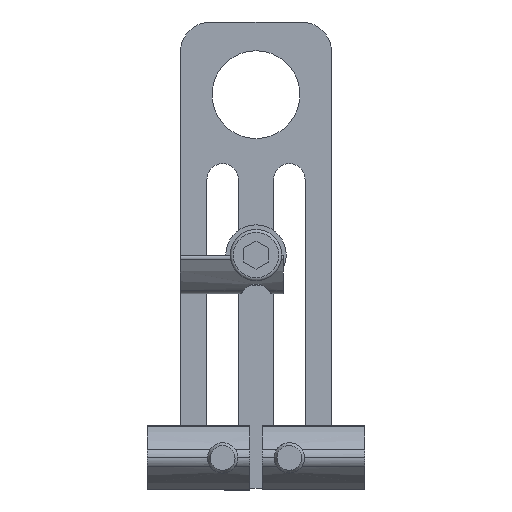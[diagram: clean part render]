
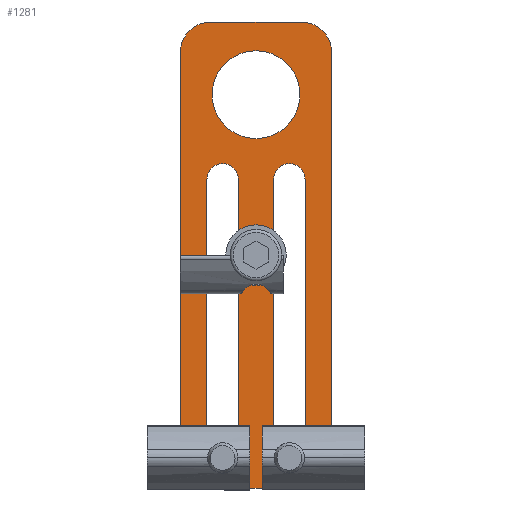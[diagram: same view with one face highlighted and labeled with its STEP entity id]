
A CAD part, left-side view. The second image highlights one B-rep face of the part: STEP entity #1281.
In plain terms, the highlighted planar face has unit normal (-1, 0, 0).
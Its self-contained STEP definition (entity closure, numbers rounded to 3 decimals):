
#1281 = ADVANCED_FACE( '', ( #1775, #1776, #1777, #1778 ), #1779, .T. );
#1775 = FACE_BOUND( '', #1893, .T. );
#1776 = FACE_OUTER_BOUND( '', #1894, .T. );
#1777 = FACE_BOUND( '', #1895, .T. );
#1778 = FACE_BOUND( '', #1896, .T. );
#1779 = PLANE( '', #1897 );
#1893 = EDGE_LOOP( '', ( #2060, #2061, #2062, #2063 ) );
#1894 = EDGE_LOOP( '', ( #2064, #2065, #2066, #2067, #2068, #2069, #2070, #2071 ) );
#1895 = EDGE_LOOP( '', ( #2072 ) );
#1896 = EDGE_LOOP( '', ( #2073, #2074, #2075, #2076 ) );
#1897 = AXIS2_PLACEMENT_3D( '', #2077, #2078, #2079 );
#2060 = ORIENTED_EDGE( '', *, *, #2321, .F. );
#2061 = ORIENTED_EDGE( '', *, *, #2322, .F. );
#2062 = ORIENTED_EDGE( '', *, *, #2319, .F. );
#2063 = ORIENTED_EDGE( '', *, *, #2323, .F. );
#2064 = ORIENTED_EDGE( '', *, *, #2324, .T. );
#2065 = ORIENTED_EDGE( '', *, *, #2316, .T. );
#2066 = ORIENTED_EDGE( '', *, *, #2325, .T. );
#2067 = ORIENTED_EDGE( '', *, *, #2326, .T. );
#2068 = ORIENTED_EDGE( '', *, *, #2327, .T. );
#2069 = ORIENTED_EDGE( '', *, *, #2328, .T. );
#2070 = ORIENTED_EDGE( '', *, *, #2329, .T. );
#2071 = ORIENTED_EDGE( '', *, *, #2330, .T. );
#2072 = ORIENTED_EDGE( '', *, *, #2331, .F. );
#2073 = ORIENTED_EDGE( '', *, *, #2332, .F. );
#2074 = ORIENTED_EDGE( '', *, *, #2333, .T. );
#2075 = ORIENTED_EDGE( '', *, *, #2334, .F. );
#2076 = ORIENTED_EDGE( '', *, *, #2335, .T. );
#2077 = CARTESIAN_POINT( '', ( 0., -12.5, 38.5 ) );
#2078 = DIRECTION( '', ( -1., 0., 0. ) );
#2079 = DIRECTION( '', ( 0., -1., 0. ) );
#2316 = EDGE_CURVE( '', #2438, #2436, #2439, .T. );
#2319 = EDGE_CURVE( '', #2441, #2443, #2444, .T. );
#2321 = EDGE_CURVE( '', #2446, #2447, #2448, .T. );
#2322 = EDGE_CURVE( '', #2443, #2446, #2449, .T. );
#2323 = EDGE_CURVE( '', #2447, #2441, #2450, .T. );
#2324 = EDGE_CURVE( '', #2451, #2438, #2452, .T. );
#2325 = EDGE_CURVE( '', #2436, #2453, #2454, .T. );
#2326 = EDGE_CURVE( '', #2453, #2455, #2456, .T. );
#2327 = EDGE_CURVE( '', #2455, #2457, #2458, .T. );
#2328 = EDGE_CURVE( '', #2457, #2459, #2460, .T. );
#2329 = EDGE_CURVE( '', #2459, #2461, #2462, .T. );
#2330 = EDGE_CURVE( '', #2461, #2451, #2463, .T. );
#2331 = EDGE_CURVE( '', #2464, #2464, #2465, .T. );
#2332 = EDGE_CURVE( '', #2466, #2467, #2468, .T. );
#2333 = EDGE_CURVE( '', #2466, #2469, #2470, .T. );
#2334 = EDGE_CURVE( '', #2471, #2469, #2472, .T. );
#2335 = EDGE_CURVE( '', #2471, #2467, #2473, .T. );
#2436 = VERTEX_POINT( '', #2528 );
#2438 = VERTEX_POINT( '', #2531 );
#2439 = CIRCLE( '', #2532, 5. );
#2441 = VERTEX_POINT( '', #2535 );
#2443 = VERTEX_POINT( '', #2538 );
#2444 = LINE( '', #2539, #2540 );
#2446 = VERTEX_POINT( '', #2543 );
#2447 = VERTEX_POINT( '', #2544 );
#2448 = LINE( '', #2545, #2546 );
#2449 = CIRCLE( '', #2547, 2.6 );
#2450 = CIRCLE( '', #2548, 2.6 );
#2451 = VERTEX_POINT( '', #2549 );
#2452 = LINE( '', #2550, #2551 );
#2453 = VERTEX_POINT( '', #2552 );
#2454 = LINE( '', #2553, #2554 );
#2455 = VERTEX_POINT( '', #2555 );
#2456 = CIRCLE( '', #2556, 5. );
#2457 = VERTEX_POINT( '', #2557 );
#2458 = LINE( '', #2558, #2559 );
#2459 = VERTEX_POINT( '', #2560 );
#2460 = CIRCLE( '', #2561, 5. );
#2461 = VERTEX_POINT( '', #2562 );
#2462 = LINE( '', #2563, #2564 );
#2463 = CIRCLE( '', #2565, 5. );
#2464 = VERTEX_POINT( '', #2566 );
#2465 = CIRCLE( '', #2567, 7.25 );
#2466 = VERTEX_POINT( '', #2568 );
#2467 = VERTEX_POINT( '', #2569 );
#2468 = CIRCLE( '', #2570, 2.6 );
#2469 = VERTEX_POINT( '', #2571 );
#2470 = LINE( '', #2572, #2573 );
#2471 = VERTEX_POINT( '', #2574 );
#2472 = CIRCLE( '', #2575, 2.6 );
#2473 = LINE( '', #2576, #2577 );
#2528 = CARTESIAN_POINT( '', ( 0., -7.5, 38.5 ) );
#2531 = CARTESIAN_POINT( '', ( 0., -12.5, 33.5 ) );
#2532 = AXIS2_PLACEMENT_3D( '', #2638, #2639, #2640 );
#2535 = CARTESIAN_POINT( '', ( 0., 8.1, 12.5 ) );
#2538 = CARTESIAN_POINT( '', ( 0., 8.1, -33.5 ) );
#2539 = CARTESIAN_POINT( '', ( 0., 8.1, 12.5 ) );
#2540 = VECTOR( '', #2643, 1000. );
#2543 = CARTESIAN_POINT( '', ( 0., 2.9, -33.5 ) );
#2544 = CARTESIAN_POINT( '', ( 0., 2.9, 12.5 ) );
#2545 = CARTESIAN_POINT( '', ( 0., 2.9, -33.5 ) );
#2546 = VECTOR( '', #2645, 1000. );
#2547 = AXIS2_PLACEMENT_3D( '', #2646, #2647, #2648 );
#2548 = AXIS2_PLACEMENT_3D( '', #2649, #2650, #2651 );
#2549 = CARTESIAN_POINT( '', ( 0., -12.5, -33.5 ) );
#2550 = CARTESIAN_POINT( '', ( 0., -12.5, -38.5 ) );
#2551 = VECTOR( '', #2652, 1000. );
#2552 = CARTESIAN_POINT( '', ( 0., 7.5, 38.5 ) );
#2553 = CARTESIAN_POINT( '', ( 0., -12.5, 38.5 ) );
#2554 = VECTOR( '', #2653, 1000. );
#2555 = CARTESIAN_POINT( '', ( 0., 12.5, 33.5 ) );
#2556 = AXIS2_PLACEMENT_3D( '', #2654, #2655, #2656 );
#2557 = CARTESIAN_POINT( '', ( 0., 12.5, -33.5 ) );
#2558 = CARTESIAN_POINT( '', ( 0., 12.5, 38.5 ) );
#2559 = VECTOR( '', #2657, 1000. );
#2560 = CARTESIAN_POINT( '', ( 0., 7.5, -38.5 ) );
#2561 = AXIS2_PLACEMENT_3D( '', #2658, #2659, #2660 );
#2562 = CARTESIAN_POINT( '', ( 0., -7.5, -38.5 ) );
#2563 = CARTESIAN_POINT( '', ( 0., 12.5, -38.5 ) );
#2564 = VECTOR( '', #2661, 1000. );
#2565 = AXIS2_PLACEMENT_3D( '', #2662, #2663, #2664 );
#2566 = CARTESIAN_POINT( '', ( 0., -7.25, 26.5 ) );
#2567 = AXIS2_PLACEMENT_3D( '', #2665, #2666, #2667 );
#2568 = CARTESIAN_POINT( '', ( 0., -8.1, 12.5 ) );
#2569 = CARTESIAN_POINT( '', ( 0., -2.9, 12.5 ) );
#2570 = AXIS2_PLACEMENT_3D( '', #2668, #2669, #2670 );
#2571 = CARTESIAN_POINT( '', ( 0., -8.1, -33.5 ) );
#2572 = CARTESIAN_POINT( '', ( 0., -8.1, 12.5 ) );
#2573 = VECTOR( '', #2671, 1000. );
#2574 = CARTESIAN_POINT( '', ( 0., -2.9, -33.5 ) );
#2575 = AXIS2_PLACEMENT_3D( '', #2672, #2673, #2674 );
#2576 = CARTESIAN_POINT( '', ( 0., -2.9, -33.5 ) );
#2577 = VECTOR( '', #2675, 1000. );
#2638 = CARTESIAN_POINT( '', ( 0., -7.5, 33.5 ) );
#2639 = DIRECTION( '', ( -1., 0., 0. ) );
#2640 = DIRECTION( '', ( 0., -1., 0. ) );
#2643 = DIRECTION( '', ( 0., 0., -1. ) );
#2645 = DIRECTION( '', ( 0., 0., 1. ) );
#2646 = CARTESIAN_POINT( '', ( 0., 5.5, -33.5 ) );
#2647 = DIRECTION( '', ( -1., 0., 0. ) );
#2648 = DIRECTION( '', ( 0., 0., -1. ) );
#2649 = CARTESIAN_POINT( '', ( 0., 5.5, 12.5 ) );
#2650 = DIRECTION( '', ( -1., 0., 0. ) );
#2651 = DIRECTION( '', ( 0., 0., -1. ) );
#2652 = DIRECTION( '', ( 0., 0., 1. ) );
#2653 = DIRECTION( '', ( 0., 1., 0. ) );
#2654 = CARTESIAN_POINT( '', ( 0., 7.5, 33.5 ) );
#2655 = DIRECTION( '', ( -1., 0., 0. ) );
#2656 = DIRECTION( '', ( 0., -1., 0. ) );
#2657 = DIRECTION( '', ( 0., 0., -1. ) );
#2658 = CARTESIAN_POINT( '', ( 0., 7.5, -33.5 ) );
#2659 = DIRECTION( '', ( -1., 0., 0. ) );
#2660 = DIRECTION( '', ( 0., -1., 0. ) );
#2661 = DIRECTION( '', ( 0., -1., 0. ) );
#2662 = CARTESIAN_POINT( '', ( 0., -7.5, -33.5 ) );
#2663 = DIRECTION( '', ( -1., 0., 0. ) );
#2664 = DIRECTION( '', ( 0., -1., 0. ) );
#2665 = CARTESIAN_POINT( '', ( 0., 0., 26.5 ) );
#2666 = DIRECTION( '', ( -1., 0., 0. ) );
#2667 = DIRECTION( '', ( 0., -1., 0. ) );
#2668 = CARTESIAN_POINT( '', ( 0., -5.5, 12.5 ) );
#2669 = DIRECTION( '', ( -1., 0., 0. ) );
#2670 = DIRECTION( '', ( 0., 0., -1. ) );
#2671 = DIRECTION( '', ( 0., 0., -1. ) );
#2672 = CARTESIAN_POINT( '', ( 0., -5.5, -33.5 ) );
#2673 = DIRECTION( '', ( -1., 0., 0. ) );
#2674 = DIRECTION( '', ( 0., 0., -1. ) );
#2675 = DIRECTION( '', ( 0., 0., 1. ) );
